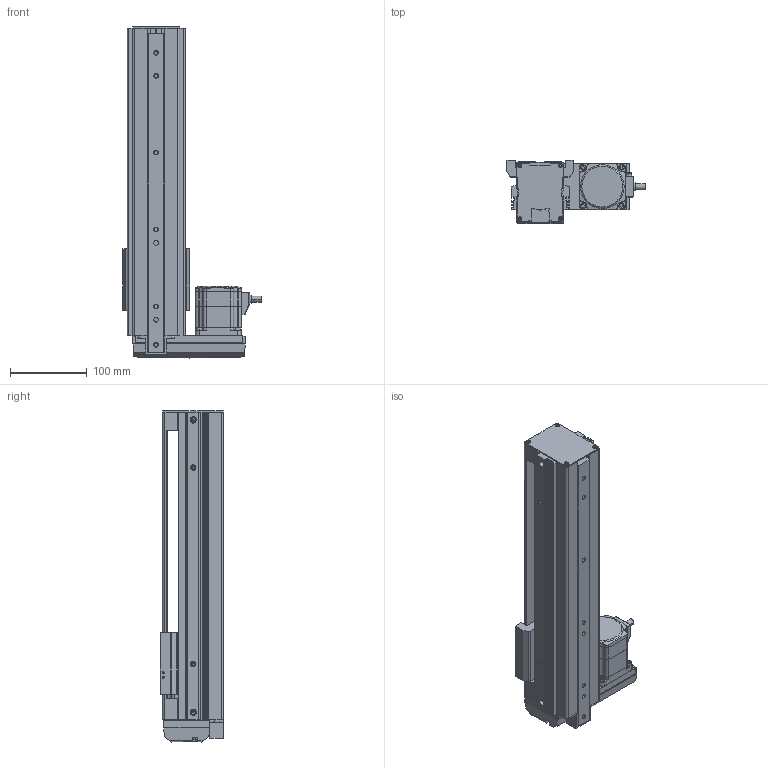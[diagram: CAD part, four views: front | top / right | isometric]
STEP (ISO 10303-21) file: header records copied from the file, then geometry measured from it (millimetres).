
FILE_DESCRIPTION (( 'STEP AP203' ), '1' );
FILE_NAME ('EASM6LXD025ARAC.step', '2013-10-10T23:36:30', ( 'om' ), ( 'Hewlett-Packard Company' ), 'SwSTEP 2.0', 'SolidWorks 2011', '' );
FILE_SCHEMA (( 'CONFIG_CONTROL_DESIGN' ));
Length unit declared in the file: millimetre
Products named in the file (4): EASM6LXD025ARAC_Motor; EASM6LXD025ARAC; EASM6LXD025ARAC_Table; EASM6LXD025ARAC_BASE
Assembly tree (3 placements, depth 2):
  EASM6LXD025ARAC
    EASM6LXD025ARAC_BASE
    EASM6LXD025ARAC_Table
    EASM6LXD025ARAC_Motor
Bounding box: 180.5 x 83 x 432.13 mm (x, y, z)
Volume: 1514592.6 mm3; surface area: 369413.6 mm2
Topology: 3 solids, 15 shells, 1127 faces, 2941 edges, 1917 vertices
Faces by surface type: plane 669, cylinder 380, cone 50, torus 24, bspline 4
Entity records: 35307 total; most frequent: CARTESIAN_POINT 6514, DIRECTION 5952, ORIENTED_EDGE 5846, EDGE_CURVE 2923, VECTOR 2018, LINE 2018, AXIS2_PLACEMENT_3D 1967, VERTEX_POINT 1917
